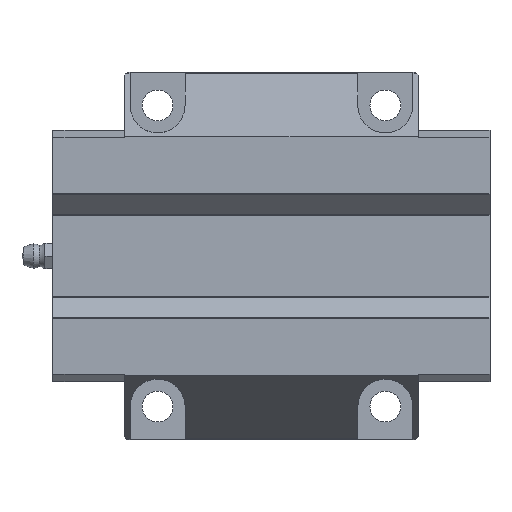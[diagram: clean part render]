
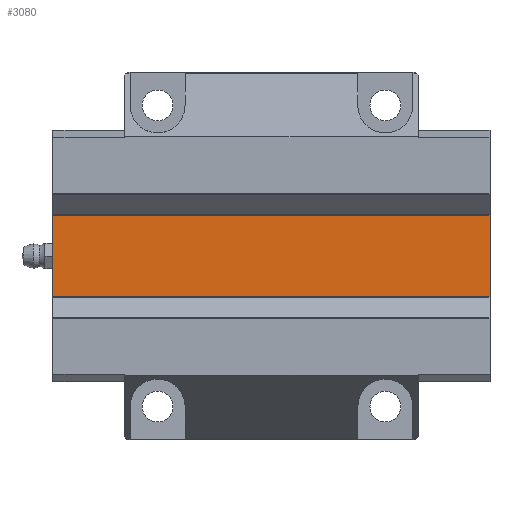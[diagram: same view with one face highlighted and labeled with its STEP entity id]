
A CAD part, front view. The second image highlights one B-rep face of the part: STEP entity #3080.
In plain terms, the highlighted planar face has unit normal (0, -1, 0).
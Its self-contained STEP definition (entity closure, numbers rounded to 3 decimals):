
#817=ORIENTED_EDGE('',*,*,#1222,.F.);
#818=ORIENTED_EDGE('',*,*,#1419,.F.);
#819=ORIENTED_EDGE('',*,*,#1165,.T.);
#820=ORIENTED_EDGE('',*,*,#1420,.T.);
#1165=EDGE_CURVE('',#1585,#1584,#1875,.T.);
#1222=EDGE_CURVE('',#1638,#1639,#1911,.T.);
#1419=EDGE_CURVE('',#1585,#1638,#2077,.T.);
#1420=EDGE_CURVE('',#1584,#1639,#2078,.T.);
#1584=VERTEX_POINT('',#4545);
#1585=VERTEX_POINT('',#4547);
#1638=VERTEX_POINT('',#4657);
#1639=VERTEX_POINT('',#4659);
#1875=LINE('',#4546,#2149);
#1911=LINE('',#4658,#2185);
#2077=LINE('',#5045,#2351);
#2078=LINE('',#5047,#2352);
#2149=VECTOR('',#3618,1000.);
#2185=VECTOR('',#3698,1000.);
#2351=VECTOR('',#4078,1000.);
#2352=VECTOR('',#4081,1000.);
#2485=EDGE_LOOP('',(#817,#818,#819,#820));
#2737=FACE_BOUND('',#2485,.T.);
#2949=PLANE('',#3360);
#3080=ADVANCED_FACE('',(#2737),#2949,.T.);
#3360=AXIS2_PLACEMENT_3D('',#5046,#4079,#4080);
#3618=DIRECTION('',(0.,0.,1.));
#3698=DIRECTION('',(0.,0.,1.));
#4078=DIRECTION('',(-1.,0.,0.));
#4079=DIRECTION('',(0.,-1.,0.));
#4080=DIRECTION('',(0.,0.,-1.));
#4081=DIRECTION('',(-1.,0.,0.));
#4545=CARTESIAN_POINT('',(59.5,24.6,15.97));
#4546=CARTESIAN_POINT('',(59.5,24.6,-15.97));
#4547=CARTESIAN_POINT('',(59.5,24.6,-15.97));
#4657=CARTESIAN_POINT('',(-59.5,24.6,-15.97));
#4658=CARTESIAN_POINT('',(-59.5,24.6,-15.97));
#4659=CARTESIAN_POINT('',(-59.5,24.6,15.97));
#5045=CARTESIAN_POINT('',(59.5,24.6,-15.97));
#5046=CARTESIAN_POINT('',(59.5,24.6,-15.97));
#5047=CARTESIAN_POINT('',(59.5,24.6,15.97));
